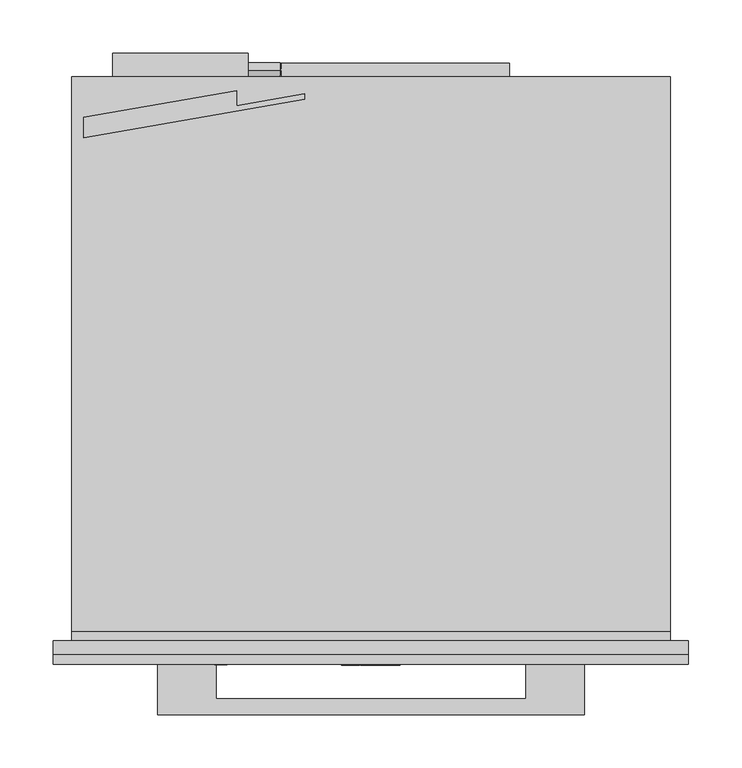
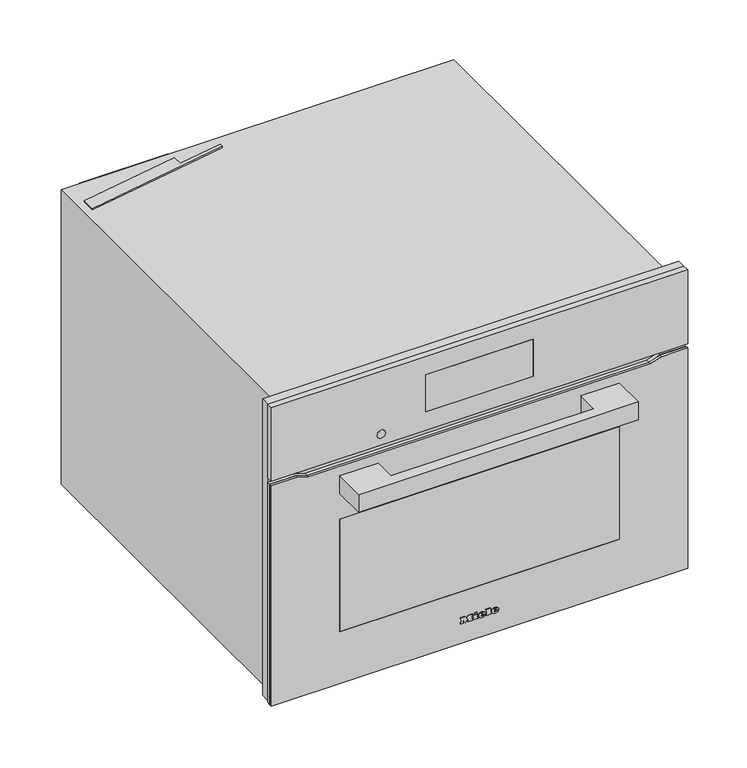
"""IFC4 building model written with IfcOpenShell, lengths in millimetres: proxy geometry, 11804660_USA_H7840BM_OBSW : 22784026_USA_11804660_H7840BM_OBSW."""

import ifcopenshell
import ifcopenshell.guid

model = None  # the IFC model being written
_history = None  # IfcOwnerHistory: only IFC2X3 demands one
_inside = {}  # id of a spatial element -> (the spatial element, [elements in it])
_under = {}  # id of a project, library or spatial element -> (it, [spatial elements below it])
_declared = {}  # id of a project -> (the project, [libraries it declares])
_typed = {}  # id of a type object -> (the type object, [elements of that type])
_made_of = {}  # id of a material, layer set ... -> (it, [elements and type objects made of it])


def new_model(schema):
    """Start an empty IFC model of exactly this schema.

    Asked for "IFC4X3", IfcOpenShell would pick the latest addendum, in which some entities
    have other attributes; the version numbers below select the first issue.
    IFC2X3 requires an IfcOwnerHistory on every rooted entity: one is made here for all.
    """
    global model, _history
    if schema == "IFC4X3":
        model = ifcopenshell.file(schema_version=(4, 3, 0, 0))
    else:
        model = ifcopenshell.file(schema=schema)
    _inside.clear()
    _under.clear()
    _declared.clear()
    _typed.clear()
    _made_of.clear()
    _history = None
    if model.schema == "IFC2X3":
        org = make("IfcOrganization", Name="unknown")
        user = make(
            "IfcPersonAndOrganization",
            ThePerson=make("IfcPerson", FamilyName="unknown"),
            TheOrganization=org,
        )
        app = make(
            "IfcApplication",
            ApplicationDeveloper=org,
            Version="unknown",
            ApplicationFullName="unknown",
            ApplicationIdentifier="unknown",
        )
        _history = make(
            "IfcOwnerHistory",
            OwningUser=user,
            OwningApplication=app,
            ChangeAction="ADDED",
            CreationDate=0,
        )
    return model


def make(cls, **values):
    """One entity of the class cls with the attributes given. An attribute that is None is left unset."""
    return model.create_entity(
        cls, **{name: value for name, value in values.items() if value is not None}
    )


def rooted(cls, **values):
    """An entity with a GlobalId (a new one), such as an element, a storey or a relation."""
    return make(cls, GlobalId=ifcopenshell.guid.new(), OwnerHistory=_history, **values)


def si_unit(unit_type, name, prefix=None):
    """IfcSIUnit, for example si_unit("LENGTHUNIT", "METRE", prefix="MILLI")."""
    return make("IfcSIUnit", UnitType=unit_type, Prefix=prefix, Name=name)


def assignment(units):
    """IfcUnitAssignment: the units of a project."""
    return None if units is None else make("IfcUnitAssignment", Units=units)


def point(xyz):
    """IfcCartesianPoint."""
    return None if xyz is None else make("IfcCartesianPoint", Coordinates=xyz)


def direction(xyz):
    """IfcDirection."""
    return None if xyz is None else make("IfcDirection", DirectionRatios=xyz)


def frame(location, z_axis=None, x_axis=None):
    """IfcAxis2Placement3D, a coordinate frame: its origin and axes. An axis left out is left unset."""
    return make(
        "IfcAxis2Placement3D",
        Location=point(location),
        Axis=direction(z_axis),
        RefDirection=direction(x_axis),
    )


def frame_2d(location, x_axis=None):
    """IfcAxis2Placement2D, a coordinate frame in the plane: its origin and x axis."""
    return make(
        "IfcAxis2Placement2D", Location=point(location), RefDirection=direction(x_axis)
    )


def origin():
    """The frame at (0, 0, 0) with its axes left unset."""
    return frame((0.0, 0.0, 0.0))


def place(relative_to, where):
    """IfcLocalPlacement: puts the frame where relative to a parent placement (None: the world)."""
    return make(
        "IfcLocalPlacement", PlacementRelTo=relative_to, RelativePlacement=where
    )


def context(
    kind, dimensions, precision=None, world=None, true_north=None, identifier=None
):
    """IfcGeometricRepresentationContext, for example the 3D "Model" context."""
    return make(
        "IfcGeometricRepresentationContext",
        ContextIdentifier=identifier,
        ContextType=kind,
        CoordinateSpaceDimension=dimensions,
        Precision=precision,
        WorldCoordinateSystem=world,
        TrueNorth=true_north,
    )


def project(units=None, contexts=None):
    """IfcProject with its units and contexts."""
    return rooted(
        "IfcProject",
        Name="project",
        RepresentationContexts=contexts,
        UnitsInContext=assignment(units),
    )


def spatial(cls, under=None, at=None, **own):
    """A site, building, storey or space (cls), placed at a placement, below another one or the project."""
    s = rooted(cls, ObjectPlacement=at, **own)
    if under is not None:
        _under.setdefault(under.id(), (under, []))[1].append(s)
    return s


def polyline(points):
    """IfcPolyline through the points."""
    return make("IfcPolyline", Points=[point(p) for p in points])


def circle_curve(where, radius):
    """IfcCircle in the frame where."""
    return make("IfcCircle", Position=where, Radius=radius)


def ellipse_curve(where, semi_axis1, semi_axis2):
    """IfcEllipse in the frame where."""
    return make(
        "IfcEllipse", Position=where, SemiAxis1=semi_axis1, SemiAxis2=semi_axis2
    )


def trimmed(basis, trim1, trim2, sense, master):
    """IfcTrimmedCurve: the piece of a basis curve between two trims."""
    return make(
        "IfcTrimmedCurve",
        BasisCurve=basis,
        Trim1=trim1,
        Trim2=trim2,
        SenseAgreement=sense,
        MasterRepresentation=master,
    )


def segment(curve, same_sense, transition):
    """IfcCompositeCurveSegment."""
    return make(
        "IfcCompositeCurveSegment",
        Transition=transition,
        SameSense=same_sense,
        ParentCurve=curve,
    )


def composite_curve(segments, self_intersect=None):
    """IfcCompositeCurve: segments joined end to end."""
    return make("IfcCompositeCurve", Segments=segments, SelfIntersect=self_intersect)


def outline(outer, holes=None, kind="AREA"):
    """IfcArbitraryClosedProfileDef: a profile drawn as a closed curve; with holes, ...WithVoids."""
    if holes is None:
        return make("IfcArbitraryClosedProfileDef", ProfileType=kind, OuterCurve=outer)
    return make(
        "IfcArbitraryProfileDefWithVoids",
        ProfileType=kind,
        OuterCurve=outer,
        InnerCurves=holes,
    )


def extrude(swept, where, along, depth):
    """IfcExtrudedAreaSolid: the profile swept, set in the frame where, extruded along a direction by depth."""
    return make(
        "IfcExtrudedAreaSolid",
        SweptArea=swept,
        Position=where,
        ExtrudedDirection=direction(along),
        Depth=depth,
    )


def faces_of(points, faces, orient=None, outer=None):
    """IfcFace entities. A face is a list of loops; a loop is a list of indices into points, from 0.

    orient and outer hold one flag for each loop. By default every Orientation is true, the
    first loop of a face is its IfcFaceOuterBound and the others are IfcFaceBound.
    """
    made = []
    for i, loops in enumerate(faces):
        bounds = []
        for j, loop in enumerate(loops):
            is_outer = j == 0 if outer is None else outer[i][j]
            bounds.append(
                make(
                    "IfcFaceOuterBound" if is_outer else "IfcFaceBound",
                    Bound=make("IfcPolyLoop", Polygon=[points[k] for k in loop]),
                    Orientation=True if orient is None else orient[i][j],
                )
            )
        made.append(make("IfcFace", Bounds=bounds))
    return made


def faceted_brep(points, faces, orient=None, outer=None, voids=None):
    """IfcFacetedBrep: a solid bounded by flat faces; with voids (closed shells), ...WithVoids."""
    shared = [point(p) for p in points]
    hull = make("IfcClosedShell", CfsFaces=faces_of(shared, faces, orient, outer))
    if voids is None:
        return make("IfcFacetedBrep", Outer=hull)
    return make(
        "IfcFacetedBrepWithVoids",
        Outer=hull,
        Voids=[
            make(cls, CfsFaces=faces_of(shared, fs, o, b)) for cls, fs, o, b in voids
        ],
    )


def shape(context_of_items, identifier, shape_type, items):
    """IfcShapeRepresentation: the items that make up one representation, for example the "Body"."""
    return make(
        "IfcShapeRepresentation",
        ContextOfItems=context_of_items,
        RepresentationIdentifier=identifier,
        RepresentationType=shape_type,
        Items=items,
    )


def source(mapping_origin, context_of_items, identifier, shape_type, items):
    """IfcRepresentationMap: a shape defined once, which mapped items show again and again."""
    return make(
        "IfcRepresentationMap",
        MappingOrigin=mapping_origin,
        MappedRepresentation=shape(context_of_items, identifier, shape_type, items),
    )


def transform(
    local_origin,
    x_axis=None,
    y_axis=None,
    z_axis=None,
    scale=None,
    scale2=None,
    scale3=None,
    uniform=True,
):
    """IfcCartesianTransformationOperator3D, or its non-uniform kind. x_axis, y_axis, z_axis: its Axis1, 2, 3."""
    if uniform:
        return make(
            "IfcCartesianTransformationOperator3D",
            Axis1=direction(x_axis),
            Axis2=direction(y_axis),
            LocalOrigin=point(local_origin),
            Scale=scale,
            Axis3=direction(z_axis),
        )
    return make(
        "IfcCartesianTransformationOperator3DnonUniform",
        Axis1=direction(x_axis),
        Axis2=direction(y_axis),
        LocalOrigin=point(local_origin),
        Scale=scale,
        Axis3=direction(z_axis),
        Scale2=scale2,
        Scale3=scale3,
    )


def mapped(mapping_source, mapping_target):
    """IfcMappedItem: shows the shape of a source again, moved by a transform."""
    return make(
        "IfcMappedItem", MappingSource=mapping_source, MappingTarget=mapping_target
    )


def made_of(thing, what):
    """Note that an element or type object is made of a material, layer set ...; save() writes the relation."""
    if what is not None:
        _made_of.setdefault(what.id(), (what, []))[1].append(thing)
    return thing


def element(
    cls,
    number,
    at=None,
    inside=None,
    cuts=None,
    type_object=None,
    material=None,
    context=None,
    identifier="Body",
    shape_type=None,
    held_by="IfcProductDefinitionShape",
    body=None,
    shapes=None,
    **own,
):
    """One element of the class cls, such as IfcWall. Its Tag is "e" and its number.

    at: its placement. inside: the storey or other place that contains it. cuts: it is an
    opening in that element (IfcRelVoidsElement). A single representation is given by context,
    identifier, shape_type and body (its items); several are given by shapes. held_by: the class
    of the entity that holds the representations. save() writes the other relations.
    """
    e = rooted(cls, Tag="e%d" % number, ObjectPlacement=at, **own)
    if body is not None:
        shapes = [shape(context, identifier, shape_type, body)]
    if shapes is not None:
        e.Representation = make(held_by, Representations=shapes)
    if inside is not None:
        _inside.setdefault(inside.id(), (inside, []))[1].append(e)
    if cuts is not None:
        rooted(
            "IfcRelVoidsElement", RelatingBuildingElement=cuts, RelatedOpeningElement=e
        )
    if type_object is not None:
        _typed.setdefault(type_object.id(), (type_object, []))[1].append(e)
    return made_of(e, material)


def aggregate(whole, parts):
    """IfcRelAggregates: a whole, such as a stair, and the parts it consists of."""
    return rooted("IfcRelAggregates", RelatingObject=whole, RelatedObjects=parts)


def save(model, path):
    """Write the relations noted so far, then the file.

    IfcRelAggregates (storeys below a building ...), IfcRelContainedInSpatialStructure (elements
    in a storey), IfcRelDefinesByType, IfcRelAssociatesMaterial and IfcRelDeclares: one each for
    every whole, place, type object, material and project.
    """
    for whole, parts in _under.values():
        aggregate(whole, parts)
    for where, things in _inside.values():
        rooted(
            "IfcRelContainedInSpatialStructure",
            RelatedElements=things,
            RelatingStructure=where,
        )
    for kind, things in _typed.values():
        rooted("IfcRelDefinesByType", RelatedObjects=things, RelatingType=kind)
    for what, things in _made_of.values():
        rooted("IfcRelAssociatesMaterial", RelatedObjects=things, RelatingMaterial=what)
    for by, libraries in _declared.values():
        rooted("IfcRelDeclares", RelatingContext=by, RelatedDefinitions=libraries)
    model.write(path)


def plane_surface(at):
    """IfcPlane: the flat surface through the origin of the frame at, square to its z axis."""
    return make("IfcPlane", Position=at)


def cylinder_surface(at, radius):
    """IfcCylindricalSurface: all points at the distance radius from the z axis of the frame at."""
    return make("IfcCylindricalSurface", Position=at, Radius=radius)


def revolved_surface(curve, axis_point, axis_direction):
    """IfcSurfaceOfRevolution: the curve turned about the line through axis_point along axis_direction."""
    return make(
        "IfcSurfaceOfRevolution",
        SweptCurve=make("IfcArbitraryOpenProfileDef", ProfileType="CURVE", Curve=curve),
        AxisPosition=make("IfcAxis1Placement", Location=point(axis_point), Axis=direction(axis_direction)),
    )


def extruded_surface(curve, direction_of_extrusion, depth):
    """IfcSurfaceOfLinearExtrusion: the curve pushed along a direction by depth."""
    return make(
        "IfcSurfaceOfLinearExtrusion",
        SweptCurve=make("IfcArbitraryOpenProfileDef", ProfileType="CURVE", Curve=curve),
        ExtrudedDirection=direction(direction_of_extrusion),
        Depth=depth,
    )


def advanced_brep(points, edges, surfaces, faces):
    """IfcAdvancedBrep: a solid bounded by faces that lie on surfaces and meet in shared edges.

    An edge is (start, end): straight between two places in points (the first is 0);
    or (start, end, curve); or (start, end, curve, False) where it runs against its curve.
    A face is (place in surfaces, loops), or (place, loops, False) where it looks against
    its surface's normal. A loop lists edges by number (the first is 1), with a minus sign
    where the edge is run from its end to its start. The first loop is the outer one.
    """
    corners = [point(p) for p in points]
    vertices = [make("IfcVertexPoint", VertexGeometry=c) for c in corners]
    made = []
    for start, end, *more in edges:
        made.append(
            make(
                "IfcEdgeCurve",
                EdgeStart=vertices[start],
                EdgeEnd=vertices[end],
                EdgeGeometry=more[0] if more else make("IfcPolyline", Points=[corners[start], corners[end]]),
                SameSense=more[1] if len(more) > 1 else True,
            )
        )
    hull = []
    for where, loops, *sense in faces:
        bounds = []
        for j, loop in enumerate(loops):
            ring = [make("IfcOrientedEdge", EdgeElement=made[abs(k) - 1], Orientation=k > 0) for k in loop]
            bounds.append(
                make(
                    "IfcFaceOuterBound" if j == 0 else "IfcFaceBound",
                    Bound=make("IfcEdgeLoop", EdgeList=ring),
                    Orientation=True,
                )
            )
        hull.append(make("IfcAdvancedFace", Bounds=bounds, FaceSurface=surfaces[where], SameSense=sense[0] if sense else True))
    return make("IfcAdvancedBrep", Outer=make("IfcClosedShell", CfsFaces=hull))


def specialty_equipment_e790b6b2(model_context):
    return source(origin(), model_context, "Body", "SolidModel", [
        advanced_brep(
        [(21.28, -23.0, 36.133), (21.28, -23.0, 37.042), (27.301, -23.0, 37.042), (16.825, -23.0, 37.042), (19.3, -23.0, 34.0), (27.148, -23.0, 36.133), (24.43, -23.0, 36.133), (22.288, -23.0, 35.125), (21.28, -23.0, 38.194), (21.28, -23.0, 39.175), (22.819, -23.0, 39.175), (22.819, -23.0, 38.194), (21.28, -22.0, 36.133), (22.288, -22.0, 35.125), (24.43, -22.0, 36.133), (27.148, -22.0, 36.133), (19.3, -22.0, 34.0), (16.825, -22.0, 37.042), (27.301, -22.0, 37.042), (21.28, -22.0, 37.042), (21.28, -22.0, 38.194), (22.819, -22.0, 38.194), (22.819, -22.0, 39.175), (21.28, -22.0, 39.175)],
        [
            (0, 1),
            (1, 2),
            (2, 3, ellipse_curve(frame((22.063, -23.0, 37.042), z_axis=(0.0, -1.0, 0.0), x_axis=(-1.0, 0.0, 0.0)), 5.238, 4.329)),
            (3, 4, circle_curve(frame((20.3080491, -23.0, 37.348), z_axis=(0.0, -1.0, 0.0), x_axis=(0.0, 0.0, -1.0)), 3.4964649)),
            (4, 5, circle_curve(frame((21.9581428, -23.0, 39.724), z_axis=(0.0, -1.0, 0.0), x_axis=(0.0, 0.0, -1.0)), 6.3110933)),
            (5, 6),
            (6, 7, circle_curve(frame((22.7279412, -23.0, 36.97), z_axis=(0.0, 1.0, 0.0), x_axis=(0.0, 0.0, -1.0)), 1.896727)),
            (7, 0, circle_curve(frame((22.288, -23.0, 36.133), z_axis=(0.0, 1.0, 0.0), x_axis=(0.0, 0.0, -1.0)), 1.008)),
            (8, 9),
            (9, 10, circle_curve(frame((22.0495, -23.0, 39.175), z_axis=(0.0, 1.0, 0.0), x_axis=(0.0, 0.0, -1.0)), 0.7695)),
            (10, 11),
            (11, 8),
            (12, 13, circle_curve(frame((22.288, -22.0, 36.133), z_axis=(0.0, -1.0, 0.0), x_axis=(0.0, 0.0, -1.0)), 1.008)),
            (13, 14, circle_curve(frame((22.7279412, -22.0, 36.97), z_axis=(0.0, -1.0, 0.0), x_axis=(0.0, 0.0, -1.0)), 1.896727)),
            (14, 15),
            (15, 16, circle_curve(frame((21.9581428, -22.0, 39.724), z_axis=(0.0, 1.0, 0.0), x_axis=(0.0, 0.0, -1.0)), 6.3110933)),
            (16, 17, circle_curve(frame((20.3080491, -22.0, 37.348), z_axis=(0.0, 1.0, 0.0), x_axis=(0.0, 0.0, -1.0)), 3.4964649)),
            (17, 18, ellipse_curve(frame((22.063, -22.0, 37.042), z_axis=(0.0, 1.0, 0.0), x_axis=(-1.0, 0.0, 0.0)), 5.238, 4.329)),
            (18, 19),
            (19, 12),
            (20, 21),
            (21, 22),
            (22, 23, circle_curve(frame((22.0495, -22.0, 39.175), z_axis=(0.0, -1.0, 0.0), x_axis=(0.0, 0.0, -1.0)), 0.7695)),
            (23, 20),
            (0, 12),
            (19, 1),
            (18, 2),
            (5, 15),
            (14, 6),
            (17, 3),
            (13, 7),
            (16, 4),
            (8, 20),
            (23, 9),
            (22, 10),
            (21, 11),
        ],
        [
            plane_surface(frame((21.28, -23.0, 37.042), z_axis=(0.0, -1.0, 0.0), x_axis=(0.0, 0.0, 1.0))),
            plane_surface(frame((21.28, -22.0, 37.042), z_axis=(0.0, 1.0, 0.0), x_axis=(0.0, 0.0, -1.0))),
            plane_surface(frame((21.28, -23.0, 36.133), z_axis=(1.0, 0.0, 0.0), x_axis=(0.0, 1.0, 0.0))),
            plane_surface(frame((21.28, -23.0, 37.042), z_axis=(0.0, 0.0, -1.0), x_axis=(0.0, 1.0, 0.0))),
            plane_surface(frame((27.148, -23.0, 36.133), z_axis=(0.0, 0.0, 1.0), x_axis=(0.0, 1.0, 0.0))),
            extruded_surface(trimmed(ellipse_curve(frame((22.063, -21.0, 37.042), z_axis=(0.0, -1.0, 0.0), x_axis=(-1.0, 0.0, 0.0)), 5.238, 4.329), [point((27.301, -21.0, 37.042))], [point((16.825, -21.0, 37.042))], True, "CARTESIAN"), (0.0, -1.0, 0.0), 1.0),
            revolved_surface(polyline([(22.7279412, -22.0, 35.073273), (22.7279412, -23.0, 35.073273)]), (22.7279412, -22.0, 36.97), (0.0, 1.0, 0.0)),
            revolved_surface(polyline([(22.288, -22.0, 35.125), (22.288, -23.0, 35.125)]), (22.288, -22.0, 36.133), (0.0, 1.0, 0.0)),
            cylinder_surface(frame((20.3080491, -22.0, 37.348), z_axis=(0.0, -1.0, 0.0), x_axis=(0.0, 0.0, -1.0)), 3.4964649),
            cylinder_surface(frame((21.9581428, -22.0, 39.724), z_axis=(0.0, -1.0, 0.0), x_axis=(0.0, 0.0, -1.0)), 6.3110933),
            plane_surface(frame((21.28, -23.0, 38.194), z_axis=(1.0, 0.0, 0.0), x_axis=(0.0, 1.0, 0.0))),
            revolved_surface(polyline([(22.0495, -22.0, 38.405499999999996), (22.0495, -23.0, 38.405499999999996)]), (22.0495, -22.0, 39.175), (0.0, 1.0, 0.0)),
            plane_surface(frame((22.819, -23.0, 39.175), z_axis=(-1.0, 0.0, 0.0), x_axis=(0.0, 1.0, 0.0))),
            plane_surface(frame((22.819, -23.0, 38.194), z_axis=(0.0, 0.0, 1.0), x_axis=(0.0, 1.0, 0.0))),
        ],
        [
            (0, [[1, 2, 3, 4, 5, 6, 7, 8], [9, 10, 11, 12]]),
            (1, [[13, 14, 15, 16, 17, 18, 19, 20], [21, 22, 23, 24]]),
            (2, [[-1, 25, -20, 26]]),
            (3, [[-2, -26, -19, 27]]),
            (4, [[-6, 28, -15, 29]]),
            (5, [[-3, -27, -18, 30]]),
            (6, [[-7, -29, -14, 31]]),
            (7, [[-8, -31, -13, -25]]),
            (8, [[-4, -30, -17, 32]]),
            (9, [[-5, -32, -16, -28]]),
            (10, [[-9, 33, -24, 34]]),
            (11, [[-10, -34, -23, 35]]),
            (12, [[-11, -35, -22, 36]]),
            (13, [[-12, -36, -21, -33]]),
        ],
    ),
        advanced_brep(
        [(2.497, -23.0, 36.133), (2.497, -23.0, 37.042), (8.518, -23.0, 37.042), (-1.958, -23.0, 37.042), (0.517, -23.0, 34.0), (8.365, -23.0, 36.133), (5.647, -23.0, 36.133), (3.505, -23.0, 35.125), (2.497, -23.0, 38.194), (2.497, -23.0, 39.175), (4.036, -23.0, 39.175), (4.036, -23.0, 38.194), (2.497, -22.0, 36.133), (3.505, -22.0, 35.125), (5.647, -22.0, 36.133), (8.365, -22.0, 36.133), (0.517, -22.0, 34.0), (-1.958, -22.0, 37.042), (8.518, -22.0, 37.042), (2.497, -22.0, 37.042), (2.497, -22.0, 38.194), (4.036, -22.0, 38.194), (4.036, -22.0, 39.175), (2.497, -22.0, 39.175)],
        [
            (0, 1),
            (1, 2),
            (2, 3, ellipse_curve(frame((3.28, -23.0, 37.042), z_axis=(0.0, -1.0, 0.0), x_axis=(-1.0, 0.0, 0.0)), 5.238, 4.329)),
            (3, 4, circle_curve(frame((1.5250491, -23.0, 37.348), z_axis=(0.0, -1.0, 0.0), x_axis=(0.0, 0.0, -1.0)), 3.4964649)),
            (4, 5, circle_curve(frame((3.1751428, -23.0, 39.724), z_axis=(0.0, -1.0, 0.0), x_axis=(0.0, 0.0, -1.0)), 6.3110933)),
            (5, 6),
            (6, 7, circle_curve(frame((3.9449412, -23.0, 36.97), z_axis=(0.0, 1.0, 0.0), x_axis=(0.0, 0.0, -1.0)), 1.896727)),
            (7, 0, circle_curve(frame((3.505, -23.0, 36.133), z_axis=(0.0, 1.0, 0.0), x_axis=(0.0, 0.0, -1.0)), 1.008)),
            (8, 9),
            (9, 10, circle_curve(frame((3.2665, -23.0, 39.175), z_axis=(0.0, 1.0, 0.0), x_axis=(0.0, 0.0, -1.0)), 0.7695)),
            (10, 11),
            (11, 8),
            (12, 13, circle_curve(frame((3.505, -22.0, 36.133), z_axis=(0.0, -1.0, 0.0), x_axis=(0.0, 0.0, -1.0)), 1.008)),
            (13, 14, circle_curve(frame((3.9449412, -22.0, 36.97), z_axis=(0.0, -1.0, 0.0), x_axis=(0.0, 0.0, -1.0)), 1.896727)),
            (14, 15),
            (15, 16, circle_curve(frame((3.1751428, -22.0, 39.724), z_axis=(0.0, 1.0, 0.0), x_axis=(0.0, 0.0, -1.0)), 6.3110933)),
            (16, 17, circle_curve(frame((1.5250491, -22.0, 37.348), z_axis=(0.0, 1.0, 0.0), x_axis=(0.0, 0.0, -1.0)), 3.4964649)),
            (17, 18, ellipse_curve(frame((3.28, -22.0, 37.042), z_axis=(0.0, 1.0, 0.0), x_axis=(-1.0, 0.0, 0.0)), 5.238, 4.329)),
            (18, 19),
            (19, 12),
            (20, 21),
            (21, 22),
            (22, 23, circle_curve(frame((3.2665, -22.0, 39.175), z_axis=(0.0, -1.0, 0.0), x_axis=(0.0, 0.0, -1.0)), 0.7695)),
            (23, 20),
            (0, 12),
            (19, 1),
            (18, 2),
            (5, 15),
            (14, 6),
            (17, 3),
            (13, 7),
            (16, 4),
            (8, 20),
            (23, 9),
            (22, 10),
            (21, 11),
        ],
        [
            plane_surface(frame((2.497, -23.0, 37.042), z_axis=(0.0, -1.0, 0.0), x_axis=(0.0, 0.0, 1.0))),
            plane_surface(frame((2.497, -22.0, 37.042), z_axis=(0.0, 1.0, 0.0), x_axis=(0.0, 0.0, -1.0))),
            plane_surface(frame((2.497, -23.0, 36.133), z_axis=(1.0, 0.0, 0.0), x_axis=(0.0, 1.0, 0.0))),
            plane_surface(frame((2.497, -23.0, 37.042), z_axis=(0.0, 0.0, -1.0), x_axis=(0.0, 1.0, 0.0))),
            plane_surface(frame((8.365, -23.0, 36.133), z_axis=(0.0, 0.0, 1.0), x_axis=(0.0, 1.0, 0.0))),
            extruded_surface(trimmed(ellipse_curve(frame((3.28, -21.0, 37.042), z_axis=(0.0, -1.0, 0.0), x_axis=(-1.0, 0.0, 0.0)), 5.238, 4.329), [point((8.518, -21.0, 37.042))], [point((-1.958, -21.0, 37.042))], True, "CARTESIAN"), (0.0, -1.0, 0.0), 1.0),
            revolved_surface(polyline([(3.9449412, -22.0, 35.073273), (3.9449412, -23.0, 35.073273)]), (3.9449412, -22.0, 36.97), (0.0, 1.0, 0.0)),
            revolved_surface(polyline([(3.505, -22.0, 35.125), (3.505, -23.0, 35.125)]), (3.505, -22.0, 36.133), (0.0, 1.0, 0.0)),
            cylinder_surface(frame((1.5250491, -22.0, 37.348), z_axis=(0.0, -1.0, 0.0), x_axis=(0.0, 0.0, -1.0)), 3.4964649),
            cylinder_surface(frame((3.1751428, -22.0, 39.724), z_axis=(0.0, -1.0, 0.0), x_axis=(0.0, 0.0, -1.0)), 6.3110933),
            plane_surface(frame((2.497, -23.0, 38.194), z_axis=(1.0, 0.0, 0.0), x_axis=(0.0, 1.0, 0.0))),
            revolved_surface(polyline([(3.2665, -22.0, 38.405499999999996), (3.2665, -23.0, 38.405499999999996)]), (3.2665, -22.0, 39.175), (0.0, 1.0, 0.0)),
            plane_surface(frame((4.036, -23.0, 39.175), z_axis=(-1.0, 0.0, 0.0), x_axis=(0.0, 1.0, 0.0))),
            plane_surface(frame((4.036, -23.0, 38.194), z_axis=(0.0, 0.0, 1.0), x_axis=(0.0, 1.0, 0.0))),
        ],
        [
            (0, [[1, 2, 3, 4, 5, 6, 7, 8], [9, 10, 11, 12]]),
            (1, [[13, 14, 15, 16, 17, 18, 19, 20], [21, 22, 23, 24]]),
            (2, [[-1, 25, -20, 26]]),
            (3, [[-2, -26, -19, 27]]),
            (4, [[-6, 28, -15, 29]]),
            (5, [[-3, -27, -18, 30]]),
            (6, [[-7, -29, -14, 31]]),
            (7, [[-8, -31, -13, -25]]),
            (8, [[-4, -30, -17, 32]]),
            (9, [[-5, -32, -16, -28]]),
            (10, [[-9, 33, -24, 34]]),
            (11, [[-10, -34, -23, 35]]),
            (12, [[-11, -35, -22, 36]]),
            (13, [[-12, -36, -21, -33]]),
        ],
    ),
        extrude(outline(polyline([(42.469, -7.34), (41.011, -6.656), (42.433, -3.605), (43.891, -4.28), (42.469, -7.34)])), frame((0.0, -23.0, 0.0), z_axis=(0.0, 1.0, 0.0), x_axis=(0.0, 0.0, 1.0)), (0.0, 0.0, 1.0), 1.0),
        extrude(outline(polyline([(40.813, -9.563), (39.202, -9.563), (39.202, -8.492), (35.512, -8.492), (35.512, -9.563), (34.0, -9.563), (34.0, -2.462), (35.512, -2.462), (35.512, -3.506), (40.813, -3.506), (40.813, -9.563)])), frame((0.0, -23.0, 0.0), z_axis=(0.0, 1.0, 0.0), x_axis=(0.0, 0.0, 1.0)), (0.0, 0.0, 1.0), 1.0),
        extrude(outline(polyline([(41.533, 9.022), (41.533, 10.102), (35.512, 10.102), (35.512, 9.022), (34.0, 9.022), (34.0, 16.321), (35.512, 16.321), (35.512, 15.214), (43.0, 15.214), (43.0, 9.022), (41.533, 9.022)])), frame((0.0, -23.0, 0.0), z_axis=(0.0, 1.0, 0.0), x_axis=(0.0, 0.0, 1.0)), (0.0, 0.0, 1.0), 1.0),
        extrude(outline(polyline([(41.533, -27.5), (41.533, -26.411), (35.512, -26.411), (35.512, -27.5), (34.0, -27.5), (34.0, -23.54), (35.512, -23.54), (35.512, -24.62), (39.3341247, -24.62), (34.0, -20.597), (39.4402223, -16.556), (35.512, -16.556), (35.512, -17.663), (34.0, -17.663), (34.0, -10.481), (35.512, -10.481), (35.512, -11.624), (41.533, -11.624), (41.533, -10.481), (43.0, -10.481), (43.0, -15.962), (39.625, -18.59), (43.0, -21.227), (43.0, -27.5), (41.533, -27.5)])), frame((0.0, -23.0, 0.0), z_axis=(0.0, 1.0, 0.0), x_axis=(0.0, 0.0, 1.0)), (0.0, 0.0, 1.0), 1.0),
        extrude(outline(polyline([(-200.0, -69.0), (-200.0, -22.0), (-145.0, -22.0), (-145.0, -54.0), (145.0, -54.0), (145.0, -22.0), (200.0, -22.0), (200.0, -69.0), (-200.0, -69.0)])), frame((0.0, 0.0, 291.0), z_axis=(0.0, 0.0, 1.0), x_axis=(1.0, 0.0, 0.0)), (0.0, 0.0, 1.0), 27.0),
        extrude(outline(polyline([(337.0, -297.5), (4.0, -297.5), (4.0, 297.5), (337.0, 297.5), (337.0, 260.3542631), (332.0, 244.0), (332.0, -244.0), (337.0, -260.3542631), (337.0, -297.5)])), frame((0.0, -18.0, 0.0), z_axis=(0.0, 1.0, 0.0), x_axis=(0.0, 0.0, 1.0)), (0.0, 0.0, 1.0), 5.0),
        extrude(outline(polyline([(337.0, -297.5), (4.0, -297.5), (4.0, 297.5), (337.0, 297.5), (337.0, 260.3542631), (332.0, 244.0), (332.0, -244.0), (337.0, -260.3542631), (337.0, -297.5)]), holes=[polyline([(252.0, 200.0), (82.0, 200.0), (82.0, -200.0), (252.0, -200.0), (252.0, 200.0)])]), frame((0.0, -22.0, 0.0), z_axis=(0.0, 1.0, 0.0), x_axis=(0.0, 0.0, 1.0)), (0.0, 0.0, 1.0), 4.0),
        extrude(outline(polyline([(-200.0, -18.0), (200.0, -18.0), (200.0, -22.0), (-200.0, -22.0), (-200.0, -18.0)])), frame((0.0, 0.0, 82.0), z_axis=(0.0, 0.0, 1.0), x_axis=(1.0, 0.0, 0.0)), (0.0, 0.0, 1.0), 170.0),
        extrude(outline(polyline([(-76.5, -21.0), (76.5, -21.0), (76.5, -22.0), (-76.5, -22.0), (-76.5, -21.0)])), frame((0.0, 0.0, 371.5), z_axis=(0.0, 0.0, 1.0), x_axis=(1.0, 0.0, 0.0)), (0.0, 0.0, 1.0), 56.0),
        faceted_brep([(297.5, -13.0, 455.0), (297.5, -13.0, 343.5), (-297.5, -13.0, 343.5), (-297.5, -13.0, 455.0), (297.5, -22.0, 343.5), (-297.5, -22.0, 343.5), (297.5, -22.0, 455.0), (-297.5, -22.0, 455.0), (76.5, -22.0, 427.5), (76.5, -22.0, 371.5), (-76.5, -22.0, 371.5), (-76.5, -22.0, 427.5), (-76.5, -21.0, 371.5), (-76.5, -21.0, 427.5), (76.5, -21.0, 427.5), (76.5, -21.0, 371.5)], [[[0, 1, 2, 3]], [[4, 5, 2, 1]], [[6, 7, 5, 4], [8, 9, 10, 11]], [[12, 13, 11, 10]], [[13, 14, 8, 11]], [[7, 6, 0, 3]], [[5, 7, 3, 2]], [[6, 4, 1, 0]], [[14, 13, 12, 15]], [[14, 15, 9, 8]], [[15, 12, 10, 9]]]),
        extrude(outline(composite_curve([segment(trimmed(circle_curve(frame_2d((360.5, -140.5745637)), 6.0), [point((360.5, -146.5745637))], [point((360.5, -134.5745637))], False, "CARTESIAN"), True, "CONTINUOUS"), segment(trimmed(circle_curve(frame_2d((360.5, -140.5745637)), 6.0), [point((360.5, -134.5745637))], [point((360.5, -146.5745637))], False, "CARTESIAN"), True, "CONTINUOUS")], self_intersect=False)), frame((0.0, -22.5, 0.0), z_axis=(0.0, 1.0, 0.0), x_axis=(0.0, 0.0, 1.0)), (0.0, 0.0, 1.0), 1.0),
        extrude(outline(polyline([(-269.0, 490.2851942), (-126.0, 515.1547594), (-126.0, 500.9446163), (-62.0, 512.0750511), (-62.0, 507.0), (-269.0, 471.0), (-269.0, 490.2851942)])), frame((0.0, 0.0, 445.0), z_axis=(0.0, 0.0, 1.0), x_axis=(1.0, 0.0, 0.0)), (0.0, 0.0, 1.0), 2.0),
        extrude(outline(polyline([(528.134837, 358.3256163), (533.9911721, 358.3256163), (533.9911721, 357.3256163), (529.134837, 357.3256163), (529.134837, 353.8256163), (532.0849866, 353.8256163), (532.0849866, 352.8256163), (529.134837, 352.8256163), (529.134837, 349.3256163), (533.9911721, 349.3256163), (533.9911721, 348.3256163), (528.134837, 348.3256163), (528.134837, 358.3256163)])), frame((-85.0, 0.0, 0.0), z_axis=(1.0, 0.0, 0.0), x_axis=(0.0, 1.0, 0.0)), (0.0, 0.0, 1.0), 1.0),
        extrude(outline(polyline([(535.4911721, 348.3256163), (535.4911721, 358.3256163), (536.5959622, 358.3256163), (536.5959622, 349.3256163), (540.4911721, 349.3256163), (540.4911721, 348.3256163), (535.4911721, 348.3256163)])), frame((-85.0, 0.0, 0.0), z_axis=(1.0, 0.0, 0.0), x_axis=(0.0, 1.0, 0.0)), (0.0, 0.0, 1.0), 1.0),
        extrude(outline(composite_curve([segment(trimmed(circle_curve(frame_2d((534.0, 353.0)), 7.5), [point((534.0, 345.5))], [point((534.0, 360.5))], False, "CARTESIAN"), True, "CONTINUOUS"), segment(trimmed(circle_curve(frame_2d((534.0, 353.0)), 7.5), [point((534.0, 360.5))], [point((534.0, 345.5))], False, "CARTESIAN"), True, "CONTINUOUS")], self_intersect=False)), frame((-115.0, 0.0, 0.0), z_axis=(1.0, 0.0, 0.0), x_axis=(0.0, 1.0, 0.0)), (0.0, 0.0, 1.0), 30.0),
        extrude(outline(polyline([(-115.0, 528.0), (-242.0, 528.0), (-242.0, 550.0), (-115.0, 550.0), (-115.0, 528.0)])), frame((0.0, 0.0, 325.0), z_axis=(0.0, 0.0, 1.0), x_axis=(1.0, 0.0, 0.0)), (0.0, 0.0, 1.0), 103.0),
        faceted_brep([(272.5, 17.0, 344.0), (-272.5, 17.0, 344.0), (-272.5, 17.0, 7.0), (272.5, 17.0, 7.0), (-230.0, 17.0, 270.0), (230.0, 17.0, 270.0), (230.0, 17.0, 60.0), (-230.0, 17.0, 60.0), (272.5, 0.0, 344.0), (-272.5, 0.0, 344.0), (-272.5, 0.0, 7.0), (272.5, 0.0, 7.0), (280.5, 0.0, 0.0), (280.5, 528.0, 0.0), (280.5, 528.0, 445.0), (280.5, 9.0, 445.0), (280.5, 9.0, 440.0), (280.5, 0.0, 440.0), (-280.5, 9.0, 445.0), (-280.5, 528.0, 445.0), (-280.5, 528.0, 0.0), (-280.5, 0.0, 0.0), (-280.5, 0.0, 440.0), (-280.5, 9.0, 440.0), (230.0, 412.0, 270.0), (-230.0, 412.0, 270.0), (-230.0, 412.0, 60.0), (230.0, 412.0, 60.0)], [[[0, 1, 2, 3], [4, 5, 6, 7]], [[1, 0, 8, 9]], [[2, 1, 9, 10]], [[0, 3, 11, 8]], [[12, 13, 14, 15, 16, 17]], [[18, 19, 20, 21, 22, 23]], [[13, 12, 21, 20]], [[14, 13, 20, 19]], [[15, 14, 19, 18]], [[21, 12, 17, 22], [9, 8, 11, 10]], [[24, 25, 26, 27]], [[25, 24, 5, 4]], [[26, 25, 4, 7]], [[27, 26, 7, 6]], [[24, 27, 6, 5]], [[3, 2, 10, 11]], [[16, 23, 22, 17]], [[23, 16, 15, 18]]]),
        extrude(outline(polyline([(130.0, 528.0), (-130.0, 528.0), (-130.0, 541.0), (130.0, 541.0), (130.0, 528.0)])), frame((0.0, 0.0, 36.0), z_axis=(0.0, 0.0, 1.0), x_axis=(1.0, 0.0, 0.0)), (0.0, 0.0, 1.0), 260.0),
        extrude(outline(polyline([(7.0, 297.5), (455.0, 297.5), (455.0, -297.5), (7.0, -297.5), (7.0, -272.5), (344.0, -272.5), (344.0, 272.5), (7.0, 272.5), (7.0, 297.5)])), frame((0.0, -13.0, 0.0), z_axis=(0.0, 1.0, 0.0), x_axis=(0.0, 0.0, 1.0)), (0.0, 0.0, 1.0), 13.0),
    ])


if __name__ == "__main__":
    model = new_model("IFC4")
    model_context = context("Model", 3, world=origin())
    ifc_project = project(units=[si_unit("LENGTHUNIT", "METRE", prefix="MILLI")], contexts=[model_context])
    site = spatial("IfcSite", under=ifc_project)
    building = spatial("IfcBuilding", under=site)
    placement = place(None, origin())
    specialty_equipment_shape = specialty_equipment_e790b6b2(model_context)
    element("IfcBuildingElementProxy", 1, Name="11804660_USA_H7840BM_OBSW : 22784026_USA_11804660_H7840BM_OBSW", ObjectType="11804660_USA_H7840BM_OBSW : 22784026_USA_11804660_H7840BM_OBSW", at=placement, inside=building, context=model_context, shape_type="MappedRepresentation", body=[
        mapped(specialty_equipment_shape, transform((0.0, 0.0, 0.0), x_axis=(1.0, 0.0, 0.0), y_axis=(0.0, 1.0, 0.0), z_axis=(0.0, 0.0, 1.0))),
    ])
    save(model, "model.ifc")
